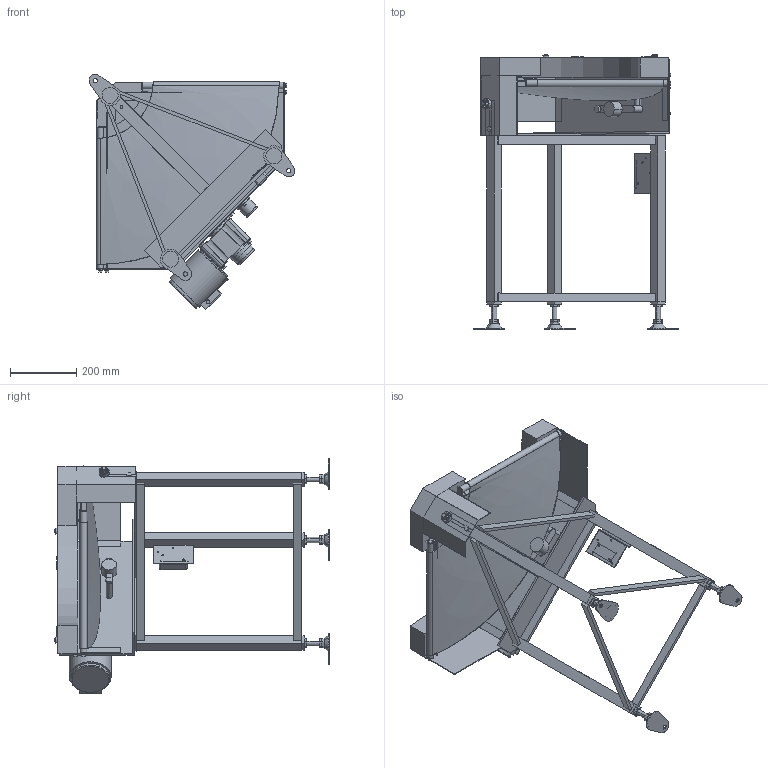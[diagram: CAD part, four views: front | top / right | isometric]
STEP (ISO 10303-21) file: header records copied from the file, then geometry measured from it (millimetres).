
FILE_DESCRIPTION( (''), '2;1');
FILE_NAME ('MMBC3-HS-310-300-90°-L-K-120.stp','2025-02-17T13:46:23',(''),(''),'spGate 20.6.2 (****-****-****-****)','','');
FILE_SCHEMA (('AUTOMOTIVE_DESIGN'));
Length unit declared in the file: millimetre
Products named in the file (44): NewModel; TEMP_X_T-prt0; TEMP_X_T-prt1; TEMP_X_T-prt2; TEMP_X_T-prt3; TEMP_X_T-prt4; TEMP_X_T-prt5; TEMP_X_T-prt6; TEMP_X_T-prt7; TEMP_X_T-prt8; TEMP_X_T-prt9; TEMP_X_T-prt10; TEMP_X_T-prt11; TEMP_X_T-prt12; TEMP_X_T-prt13; TEMP_X_T-prt14; TEMP_X_T-prt15; TEMP_X_T-prt16; TEMP_X_T-prt17; TEMP_X_T-prt18; TEMP_X_T-prt19; TEMP_X_T-prt20; TEMP_X_T-prt21; TEMP_X_T-prt22; TEMP_X_T-prt23; TEMP_X_T-prt24; TEMP_X_T-prt25; TEMP_X_T-prt26; TEMP_X_T-prt27; TEMP_X_T-prt28; TEMP_X_T-prt29; TEMP_X_T-prt30; TEMP_X_T-prt31; TEMP_X_T-prt32; TEMP_X_T-prt33; TEMP_X_T-prt34; TEMP_X_T-prt35; TEMP_X_T-prt36; TEMP_X_T-prt37; TEMP_X_T-prt38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
Assembly tree (43 placements, depth 2):
  NewModel
    TEMP_X_T-prt0
    TEMP_X_T-prt1
    TEMP_X_T-prt2
    TEMP_X_T-prt3
    TEMP_X_T-prt4
    TEMP_X_T-prt5
    TEMP_X_T-prt6
    TEMP_X_T-prt7
    TEMP_X_T-prt8
    TEMP_X_T-prt9
    TEMP_X_T-prt10
    TEMP_X_T-prt11
    TEMP_X_T-prt12
    TEMP_X_T-prt13
    TEMP_X_T-prt14
    TEMP_X_T-prt15
    TEMP_X_T-prt16
    TEMP_X_T-prt17
    TEMP_X_T-prt18
    TEMP_X_T-prt19
    TEMP_X_T-prt20
    TEMP_X_T-prt21
    TEMP_X_T-prt22
    TEMP_X_T-prt23
    TEMP_X_T-prt24
    TEMP_X_T-prt25
    TEMP_X_T-prt26
    TEMP_X_T-prt27
    TEMP_X_T-prt28
    TEMP_X_T-prt29
    TEMP_X_T-prt30
    TEMP_X_T-prt31
    TEMP_X_T-prt32
    TEMP_X_T-prt33
    TEMP_X_T-prt34
    TEMP_X_T-prt35
    TEMP_X_T-prt36
    TEMP_X_T-prt37
    TEMP_X_T-prt38
    TEMP_X_T-prt39
    TEMP_X_T-prt40
    TEMP_X_T-prt41
    TEMP_X_T-prt42
Bounding box: 620.53 x 827.92 x 709.29 mm (x, y, z)
Volume: 14291824.5 mm3; surface area: 3116463.8 mm2
Topology: 43 solids, 43 shells, 1155 faces, 2745 edges, 1789 vertices
Faces by surface type: plane 674, cylinder 363, bspline 106, sphere 12
Entity records: 60524 total; most frequent: CARTESIAN_POINT 10490, ORIENTED_EDGE 5462, DIRECTION 5414, COLOUR_RGB 3929, PRESENTATION_STYLE_ASSIGNMENT 3929, STYLED_ITEM 3929, EDGE_CURVE 2731, DRAUGHTING_PRE_DEFINED_CURVE_FONT 2731
